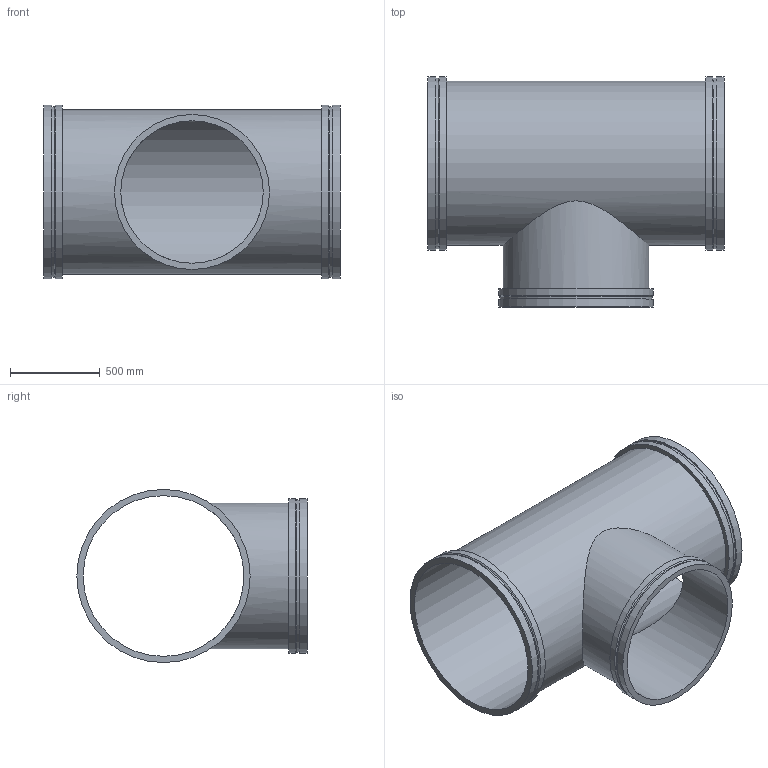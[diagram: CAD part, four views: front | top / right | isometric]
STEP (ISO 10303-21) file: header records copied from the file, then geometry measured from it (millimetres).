
FILE_DESCRIPTION(/* description */ ('VIC REDUCING TEE No W025 VR','CAx-IF Rec.Pracs.---Representation and Presentation of Product Manufacturing Information (PMI)---4.0---2014-10-13'),/* implementation_level */ '2;1');
FILE_NAME(/* name */ 'C:\Users\kkamble\AppData\Roaming\Autodesk\ApplicationPlugins\Back Up\Victaulic_Vic-Ring_Tee Reducing_No W25 VR (AGR)\Victaulic_Vic-Ring_Tee Reducing_No W25 VR (AGR)_36.0x32.0 (900x800).stp',/* time_stamp */ '2020-09-10T11:55:24+05:00',/* author */ ('mchristi'),/* organization */ ('Victaulic'),/* preprocessor_version */ 'ST-DEVELOPER v17.2',/* originating_system */ 'Autodesk Inventor 2019',/* authorisation */ '');
FILE_SCHEMA (('AP242_MANAGED_MODEL_BASED_3D_ENGINEERING_MIM_LF { 1 0 10303 442 1 1 4 }'));
Length unit declared in the file: inch
Products named in the file (1): W25 VR-36.0x32.0
Bounding box: 1651 x 1282.7 x 965.2 mm (x, y, z)
Volume: 71173743.6 mm3; surface area: 11182292.7 mm2
Topology: 1 solids, 1 shells, 25 faces, 68 edges, 52 vertices
Faces by surface type: cylinder 13, plane 9, cone 3
Full cylindrical faces by diameter (mm): 793.75 x1, 812.8 x1, 849.122 x1, 863.6 x2, 895.35 x1, 914.4 x1, 950.722 x2, 965.2 x4
Entity records: 1267 total; most frequent: CARTESIAN_POINT 423, DIRECTION 190, ORIENTED_EDGE 136, AXIS2_PLACEMENT_3D 87, EDGE_CURVE 68, VERTEX_POINT 52, CIRCLE 48, EDGE_LOOP 36
